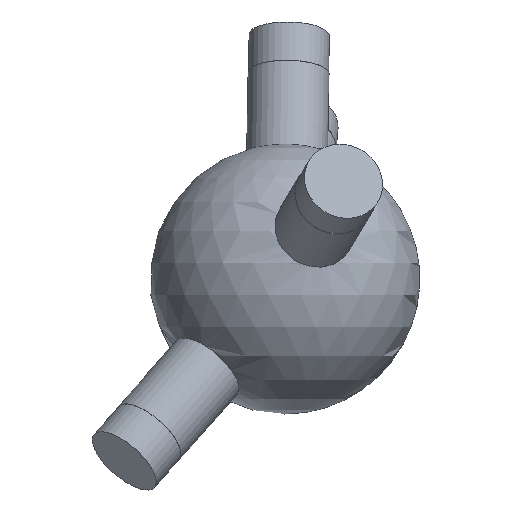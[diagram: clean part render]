
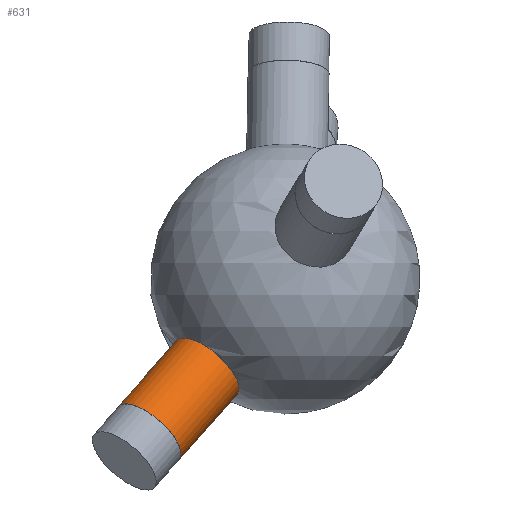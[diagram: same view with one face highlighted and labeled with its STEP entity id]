
A CAD part, front view. The second image highlights one B-rep face of the part: STEP entity #631.
In plain terms, the highlighted cylindrical face has radius 6 mm (diameter 12 mm), a full revolution.
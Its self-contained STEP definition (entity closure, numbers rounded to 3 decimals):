
#35 = SPHERICAL_SURFACE('',#36,20.);
#36 = AXIS2_PLACEMENT_3D('',#37,#38,#39);
#37 = CARTESIAN_POINT('',(0.,0.,0.));
#38 = DIRECTION('',(0.,0.,1.));
#39 = DIRECTION('',(1.,0.,-0.));
#123 = EDGE_CURVE('',#124,#124,#126,.T.);
#124 = VERTEX_POINT('',#125);
#125 = CARTESIAN_POINT('',(-16.061,-7.674,
    -9.119));
#126 = SURFACE_CURVE('',#127,(#132,#201),.PCURVE_S1.);
#127 = CIRCLE('',#128,6.);
#128 = AXIS2_PLACEMENT_3D('',#129,#130,#131);
#129 = CARTESIAN_POINT('',(-11.564,-7.674,
    -13.091));
#130 = DIRECTION('',(-0.606,-0.402,-0.686));
#131 = DIRECTION('',(0.749,0.,-0.662)
  );
#132 = PCURVE('',#35,#133);
#133 = DEFINITIONAL_REPRESENTATION('',(#134),#200);
#134 = B_SPLINE_CURVE_WITH_KNOTS('',8,(#135,#136,#137,#138,#139,#140,
    #141,#142,#143,#144,#145,#146,#147,#148,#149,#150,#151,#152,#153,
    #154,#155,#156,#157,#158,#159,#160,#161,#162,#163,#164,#165,#166,
    #167,#168,#169,#170,#171,#172,#173,#174,#175,#176,#177,#178,#179,
    #180,#181,#182,#183,#184,#185,#186,#187,#188,#189,#190,#191,#192,
    #193,#194,#195,#196,#197,#198,#199),.UNSPECIFIED.,.T.,.F.,(9,7,7,7,7
    ,7,7,7,7,9),(3.142,3.927,4.614,
    5.216,5.742,6.202,6.605,
    7.31,8.367,9.425),.UNSPECIFIED.);
#135 = CARTESIAN_POINT('',(3.587,-0.473));
#136 = CARTESIAN_POINT('',(3.556,-0.483));
#137 = CARTESIAN_POINT('',(3.526,-0.496));
#138 = CARTESIAN_POINT('',(3.497,-0.511));
#139 = CARTESIAN_POINT('',(3.469,-0.528));
#140 = CARTESIAN_POINT('',(3.443,-0.547));
#141 = CARTESIAN_POINT('',(3.418,-0.569));
#142 = CARTESIAN_POINT('',(3.396,-0.592));
#143 = CARTESIAN_POINT('',(3.359,-0.638));
#144 = CARTESIAN_POINT('',(3.343,-0.661));
#145 = CARTESIAN_POINT('',(3.33,-0.684));
#146 = CARTESIAN_POINT('',(3.318,-0.709));
#147 = CARTESIAN_POINT('',(3.31,-0.734));
#148 = CARTESIAN_POINT('',(3.304,-0.76));
#149 = CARTESIAN_POINT('',(3.302,-0.785));
#150 = CARTESIAN_POINT('',(3.303,-0.834));
#151 = CARTESIAN_POINT('',(3.307,-0.856));
#152 = CARTESIAN_POINT('',(3.314,-0.878));
#153 = CARTESIAN_POINT('',(3.323,-0.9));
#154 = CARTESIAN_POINT('',(3.337,-0.921));
#155 = CARTESIAN_POINT('',(3.354,-0.942));
#156 = CARTESIAN_POINT('',(3.375,-0.961));
#157 = CARTESIAN_POINT('',(3.423,-0.994));
#158 = CARTESIAN_POINT('',(3.448,-1.008));
#159 = CARTESIAN_POINT('',(3.477,-1.021));
#160 = CARTESIAN_POINT('',(3.508,-1.032));
#161 = CARTESIAN_POINT('',(3.543,-1.042));
#162 = CARTESIAN_POINT('',(3.58,-1.049));
#163 = CARTESIAN_POINT('',(3.618,-1.055));
#164 = CARTESIAN_POINT('',(3.692,-1.061));
#165 = CARTESIAN_POINT('',(3.728,-1.062));
#166 = CARTESIAN_POINT('',(3.764,-1.062));
#167 = CARTESIAN_POINT('',(3.799,-1.06));
#168 = CARTESIAN_POINT('',(3.834,-1.056));
#169 = CARTESIAN_POINT('',(3.867,-1.05));
#170 = CARTESIAN_POINT('',(3.899,-1.043));
#171 = CARTESIAN_POINT('',(3.954,-1.028));
#172 = CARTESIAN_POINT('',(3.979,-1.019));
#173 = CARTESIAN_POINT('',(4.001,-1.01));
#174 = CARTESIAN_POINT('',(4.022,-1.));
#175 = CARTESIAN_POINT('',(4.041,-0.989));
#176 = CARTESIAN_POINT('',(4.058,-0.977));
#177 = CARTESIAN_POINT('',(4.074,-0.965));
#178 = CARTESIAN_POINT('',(4.111,-0.929));
#179 = CARTESIAN_POINT('',(4.129,-0.905));
#180 = CARTESIAN_POINT('',(4.142,-0.88));
#181 = CARTESIAN_POINT('',(4.151,-0.853));
#182 = CARTESIAN_POINT('',(4.155,-0.827));
#183 = CARTESIAN_POINT('',(4.155,-0.8));
#184 = CARTESIAN_POINT('',(4.152,-0.774));
#185 = CARTESIAN_POINT('',(4.137,-0.709));
#186 = CARTESIAN_POINT('',(4.121,-0.671));
#187 = CARTESIAN_POINT('',(4.099,-0.634));
#188 = CARTESIAN_POINT('',(4.072,-0.6));
#189 = CARTESIAN_POINT('',(4.041,-0.569));
#190 = CARTESIAN_POINT('',(4.007,-0.542));
#191 = CARTESIAN_POINT('',(3.97,-0.518));
#192 = CARTESIAN_POINT('',(3.891,-0.479));
#193 = CARTESIAN_POINT('',(3.849,-0.464));
#194 = CARTESIAN_POINT('',(3.806,-0.454));
#195 = CARTESIAN_POINT('',(3.762,-0.448));
#196 = CARTESIAN_POINT('',(3.717,-0.447));
#197 = CARTESIAN_POINT('',(3.673,-0.451));
#198 = CARTESIAN_POINT('',(3.629,-0.46));
#199 = CARTESIAN_POINT('',(3.587,-0.473));
#200 = ( GEOMETRIC_REPRESENTATION_CONTEXT(2) 
PARAMETRIC_REPRESENTATION_CONTEXT() REPRESENTATION_CONTEXT('2D SPACE',''
  ) );
#201 = PCURVE('',#202,#207);
#202 = CYLINDRICAL_SURFACE('',#203,6.);
#203 = AXIS2_PLACEMENT_3D('',#204,#205,#206);
#204 = CARTESIAN_POINT('',(0.,0.,0.));
#205 = DIRECTION('',(-0.606,-0.402,-0.686));
#206 = DIRECTION('',(-0.749,0.,0.662));
#207 = DEFINITIONAL_REPRESENTATION('',(#208),#212);
#208 = LINE('',#209,#210);
#209 = CARTESIAN_POINT('',(-3.142,19.079));
#210 = VECTOR('',#211,1.);
#211 = DIRECTION('',(1.,0.));
#212 = ( GEOMETRIC_REPRESENTATION_CONTEXT(2) 
PARAMETRIC_REPRESENTATION_CONTEXT() REPRESENTATION_CONTEXT('2D SPACE',''
  ) );
#631 = ADVANCED_FACE('',(#632),#202,.T.);
#632 = FACE_BOUND('',#633,.T.);
#633 = EDGE_LOOP('',(#634,#657,#684,#685));
#634 = ORIENTED_EDGE('',*,*,#635,.T.);
#635 = EDGE_CURVE('',#124,#636,#638,.T.);
#636 = VERTEX_POINT('',#637);
#637 = CARTESIAN_POINT('',(-24.663,-13.383,
    -18.858));
#638 = SEAM_CURVE('',#639,(#643,#650),.PCURVE_S1.);
#639 = LINE('',#640,#641);
#640 = CARTESIAN_POINT('',(-4.497,0.,
    3.972));
#641 = VECTOR('',#642,1.);
#642 = DIRECTION('',(-0.606,-0.402,-0.686));
#643 = PCURVE('',#202,#644);
#644 = DEFINITIONAL_REPRESENTATION('',(#645),#649);
#645 = LINE('',#646,#647);
#646 = CARTESIAN_POINT('',(6.283,-0.));
#647 = VECTOR('',#648,1.);
#648 = DIRECTION('',(0.,1.));
#649 = ( GEOMETRIC_REPRESENTATION_CONTEXT(2) 
PARAMETRIC_REPRESENTATION_CONTEXT() REPRESENTATION_CONTEXT('2D SPACE',''
  ) );
#650 = PCURVE('',#202,#651);
#651 = DEFINITIONAL_REPRESENTATION('',(#652),#656);
#652 = LINE('',#653,#654);
#653 = CARTESIAN_POINT('',(0.,-0.));
#654 = VECTOR('',#655,1.);
#655 = DIRECTION('',(0.,1.));
#656 = ( GEOMETRIC_REPRESENTATION_CONTEXT(2) 
PARAMETRIC_REPRESENTATION_CONTEXT() REPRESENTATION_CONTEXT('2D SPACE',''
  ) );
#657 = ORIENTED_EDGE('',*,*,#658,.F.);
#658 = EDGE_CURVE('',#636,#636,#659,.T.);
#659 = SURFACE_CURVE('',#660,(#665,#672),.PCURVE_S1.);
#660 = CIRCLE('',#661,6.);
#661 = AXIS2_PLACEMENT_3D('',#662,#663,#664);
#662 = CARTESIAN_POINT('',(-20.166,-13.383,
    -22.83));
#663 = DIRECTION('',(-0.606,-0.402,-0.686));
#664 = DIRECTION('',(-0.749,0.,0.662)
  );
#665 = PCURVE('',#202,#666);
#666 = DEFINITIONAL_REPRESENTATION('',(#667),#671);
#667 = LINE('',#668,#669);
#668 = CARTESIAN_POINT('',(0.,33.272));
#669 = VECTOR('',#670,1.);
#670 = DIRECTION('',(1.,0.));
#671 = ( GEOMETRIC_REPRESENTATION_CONTEXT(2) 
PARAMETRIC_REPRESENTATION_CONTEXT() REPRESENTATION_CONTEXT('2D SPACE',''
  ) );
#672 = PCURVE('',#673,#678);
#673 = PLANE('',#674);
#674 = AXIS2_PLACEMENT_3D('',#675,#676,#677);
#675 = CARTESIAN_POINT('',(-20.166,-13.383,
    -22.83));
#676 = DIRECTION('',(-0.606,-0.402,-0.686));
#677 = DIRECTION('',(-0.749,0.,0.662));
#678 = DEFINITIONAL_REPRESENTATION('',(#679),#683);
#679 = CIRCLE('',#680,6.);
#680 = AXIS2_PLACEMENT_2D('',#681,#682);
#681 = CARTESIAN_POINT('',(0.,0.));
#682 = DIRECTION('',(1.,0.));
#683 = ( GEOMETRIC_REPRESENTATION_CONTEXT(2) 
PARAMETRIC_REPRESENTATION_CONTEXT() REPRESENTATION_CONTEXT('2D SPACE',''
  ) );
#684 = ORIENTED_EDGE('',*,*,#635,.F.);
#685 = ORIENTED_EDGE('',*,*,#123,.T.);
